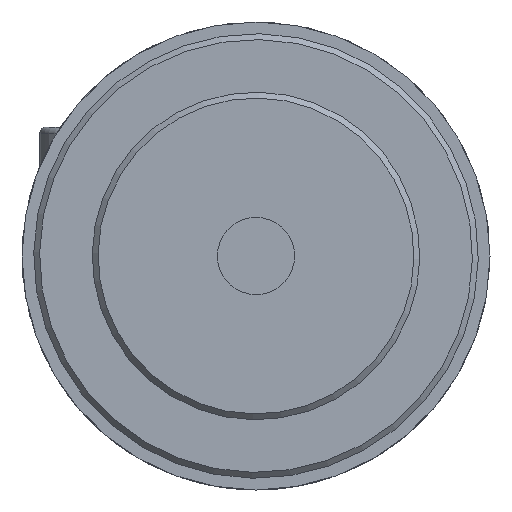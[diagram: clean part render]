
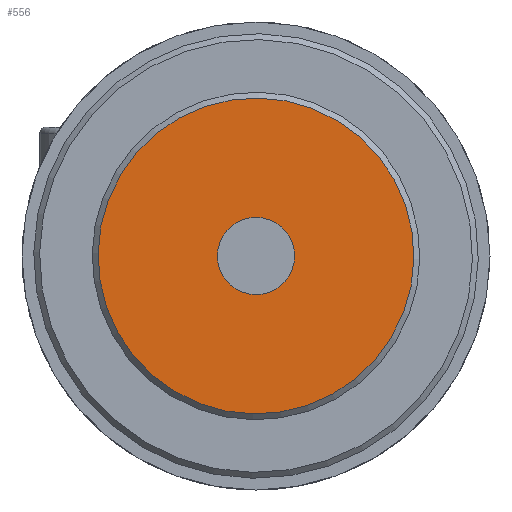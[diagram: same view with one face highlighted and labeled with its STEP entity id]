
A CAD part, left-side view. The second image highlights one B-rep face of the part: STEP entity #556.
In plain terms, the highlighted planar face has unit normal (-1, 0, 0) as drawn and (1, 0, 0) by its records, which use the part's own axes.
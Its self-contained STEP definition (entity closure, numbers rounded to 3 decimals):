
#556 = ADVANCED_FACE( '', ( #1164, #1165 ), #1166, .T. );
#1164 = FACE_OUTER_BOUND( '', #1893, .T. );
#1165 = FACE_BOUND( '', #1894, .T. );
#1166 = PLANE( '', #1895 );
#1893 = EDGE_LOOP( '', ( #2972 ) );
#1894 = EDGE_LOOP( '', ( #2973 ) );
#1895 = AXIS2_PLACEMENT_3D( '', #2974, #2975, #2976 );
#2972 = ORIENTED_EDGE( '', *, *, #3769, .T. );
#2973 = ORIENTED_EDGE( '', *, *, #3767, .T. );
#2974 = CARTESIAN_POINT( '', ( 18., 0., 7. ) );
#2975 = DIRECTION( '', ( 1., 0., 0. ) );
#2976 = DIRECTION( '', ( 0., 0., -1. ) );
#3767 = EDGE_CURVE( '', #4441, #4441, #4442, .T. );
#3769 = EDGE_CURVE( '', #4444, #4444, #4445, .T. );
#4441 = VERTEX_POINT( '', #5550 );
#4442 = CIRCLE( '', #5551, 1.65 );
#4444 = VERTEX_POINT( '', #5553 );
#4445 = CIRCLE( '', #5554, 6.75 );
#5550 = CARTESIAN_POINT( '', ( 18., 0., 1.65 ) );
#5551 = AXIS2_PLACEMENT_3D( '', #6339, #6340, #6341 );
#5553 = CARTESIAN_POINT( '', ( 18., 0., -6.75 ) );
#5554 = AXIS2_PLACEMENT_3D( '', #6342, #6343, #6344 );
#6339 = CARTESIAN_POINT( '', ( 18., 0., 0. ) );
#6340 = DIRECTION( '', ( -1., 0., 0. ) );
#6341 = DIRECTION( '', ( 0., 0., 1. ) );
#6342 = CARTESIAN_POINT( '', ( 18., 0., 0. ) );
#6343 = DIRECTION( '', ( 1., 0., 0. ) );
#6344 = DIRECTION( '', ( 0., 0., -1. ) );
